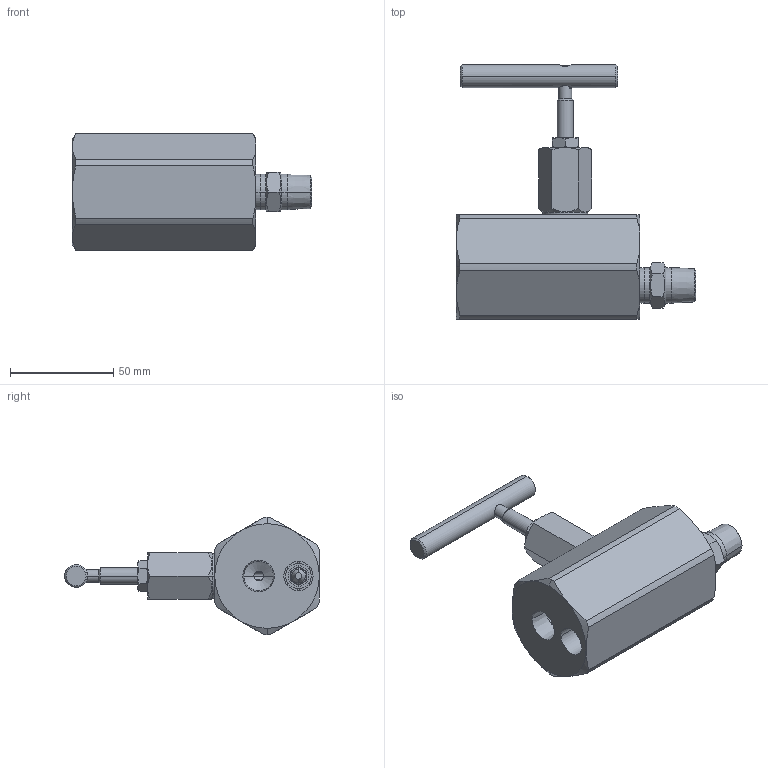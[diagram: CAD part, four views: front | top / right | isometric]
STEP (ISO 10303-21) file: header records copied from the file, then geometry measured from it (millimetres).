
FILE_DESCRIPTION((''),'2;1');
FILE_NAME('V161','2020-03-06T09:23:59',('mike.ward'),(''),'CREO PARAMETRIC BY PTC INC, 2018400','CREO PARAMETRIC BY PTC INC, 2018400','');
FILE_SCHEMA(('CONFIG_CONTROL_DESIGN'));
Length unit declared in the file: inch
Products named in the file (1): V161
Bounding box: 116.18 x 123.6 x 56.77 mm (x, y, z)
Volume: 210579.9 mm3; surface area: 40075.6 mm2
Topology: 4 solids, 4 shells, 584 faces, 1540 edges, 972 vertices
Faces by surface type: plane 308, cylinder 126, cone 104, extrusion 14, bspline 14, torus 12, sphere 6
Entity records: 31022 total; most frequent: CARTESIAN_POINT 16765, ORIENTED_EDGE 3052, DIRECTION 2792, EDGE_CURVE 1526, VERTEX_POINT 972, VECTOR 938, AXIS2_PLACEMENT_3D 927, LINE 924
